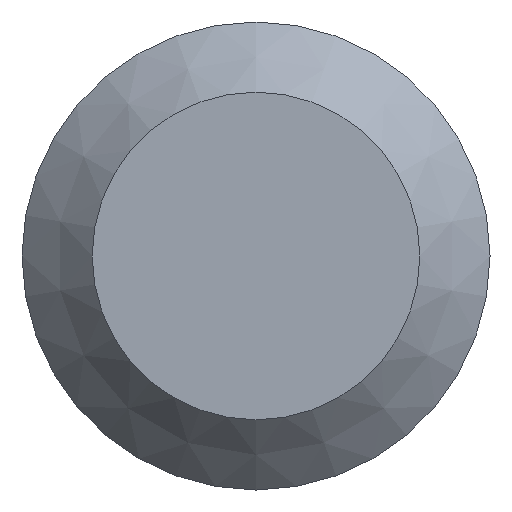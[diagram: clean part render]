
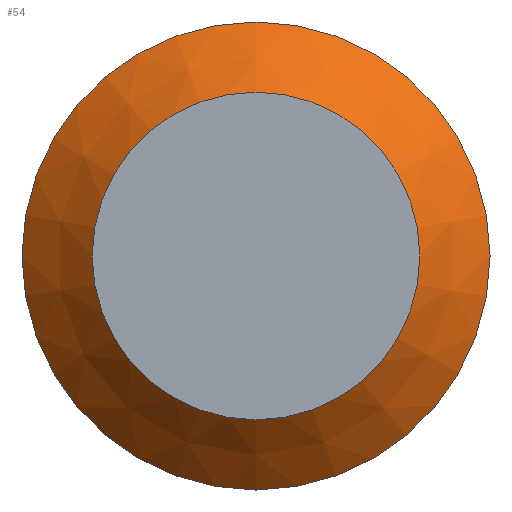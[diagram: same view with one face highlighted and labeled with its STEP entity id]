
A CAD part, front view. The second image highlights one B-rep face of the part: STEP entity #54.
In plain terms, the highlighted conical face has half-angle 45 degrees and reference radius 10 mm.
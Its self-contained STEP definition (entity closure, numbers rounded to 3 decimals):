
#42=CONICAL_SURFACE('',#182,10.,45.);
#54=ADVANCED_FACE('',(#72,#73),#42,.T.);
#72=FACE_BOUND('',#95,.T.);
#73=FACE_BOUND('',#96,.T.);
#95=EDGE_LOOP('',(#119));
#96=EDGE_LOOP('',(#120));
#119=ORIENTED_EDGE('',*,*,#154,.F.);
#120=ORIENTED_EDGE('',*,*,#152,.F.);
#140=VERTEX_POINT('',#256);
#142=VERTEX_POINT('',#261);
#152=EDGE_CURVE('',#140,#140,#164,.T.);
#154=EDGE_CURVE('',#142,#142,#166,.T.);
#164=CIRCLE('',#177,10.);
#166=CIRCLE('',#180,7.);
#177=AXIS2_PLACEMENT_3D('',#255,#204,#205);
#180=AXIS2_PLACEMENT_3D('',#260,#210,#211);
#182=AXIS2_PLACEMENT_3D('',#263,#214,#215);
#204=DIRECTION('',(0.,1.,0.));
#205=DIRECTION('',(0.,0.,-1.));
#210=DIRECTION('',(0.,-1.,0.));
#211=DIRECTION('',(0.,0.,-1.));
#214=DIRECTION('',(0.,1.,0.));
#215=DIRECTION('',(0.,0.,1.));
#255=CARTESIAN_POINT('',(0.,3.,0.));
#256=CARTESIAN_POINT('',(0.,3.,-10.));
#260=CARTESIAN_POINT('',(0.,0.,0.));
#261=CARTESIAN_POINT('',(0.,0.,-7.));
#263=CARTESIAN_POINT('',(0.,3.,0.));
